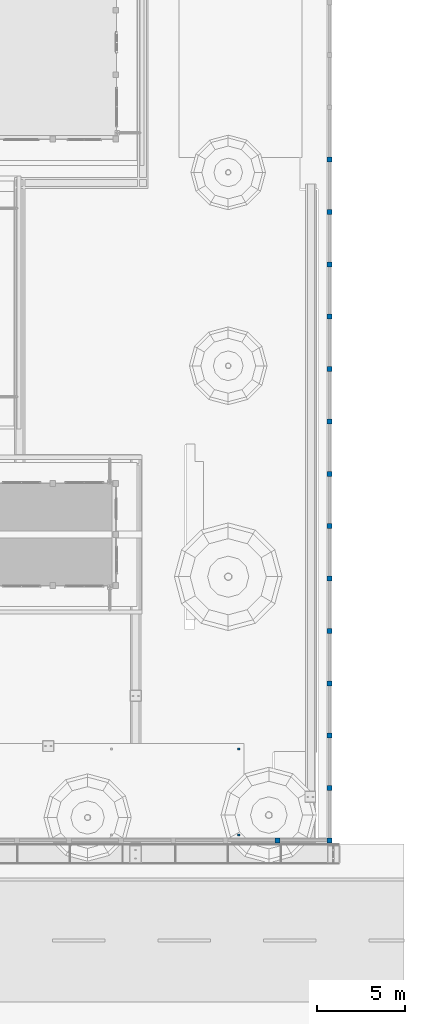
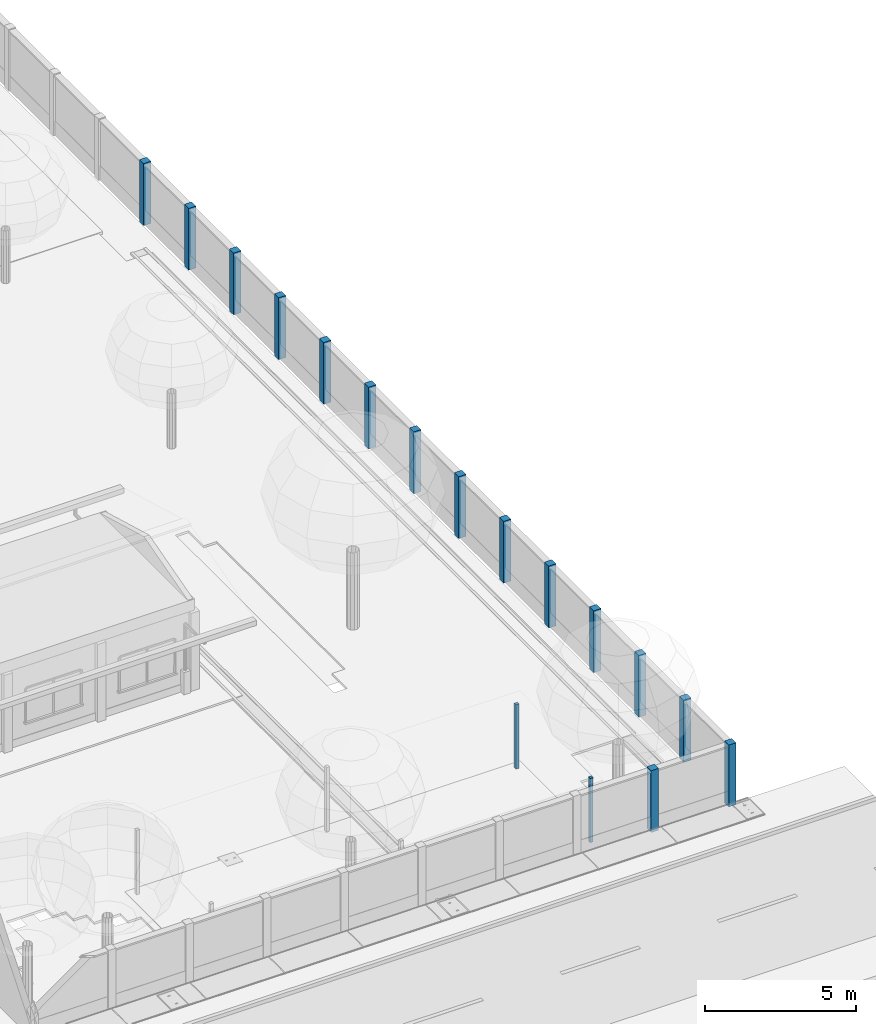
# One storey, part 5 of 177: 18 columns.
"""IFC4 building model written with IfcOpenShell, lengths in metres."""

from ifc_helpers import new_model, si_unit, origin, origin_with_axes, place, context, subcontext, project, spatial, triangles, element, save


model = new_model("IFC4")

# Units and contexts
model_context = context("Model", 3, precision=1e-05, world=origin_with_axes())
body_context = subcontext(model_context, "Body", "Model", "MODEL_VIEW")
ifc_project = project(units=[si_unit("LENGTHUNIT", "METRE"), si_unit("AREAUNIT", "SQUARE_METRE"), si_unit("VOLUMEUNIT", "CUBIC_METRE"), si_unit("PLANEANGLEUNIT", "RADIAN")], contexts=[model_context])

# Site, building, storey
site_placement = place(None, origin_with_axes())
site = spatial("IfcSite", under=ifc_project, at=site_placement, Name="Predio Los Mangos - Morales, San Martín", CompositionType="ELEMENT")
building_placement = place(site_placement, origin())
building = spatial("IfcBuilding", under=site, at=building_placement, Name="Hogar de Refugio Temporal", CompositionType="ELEMENT")
storey_placement = place(building_placement, origin())
storey = spatial("IfcBuildingStorey", under=building, at=storey_placement, Name="NIVEL 1 (NPT +0.00)", CompositionType="ELEMENT", Elevation=0.0)

# Columns
column_1_placement = place(storey_placement, origin())
element("IfcColumn", 1, at=column_1_placement, inside=storey, Name="poste_autos", ObjectType="Columna", PredefinedType="COLUMN", context=body_context, shape_type="Tessellation", body=[
    triangles([(66.54, 18.24, 0.1), (66.66, 18.24, 0.1), (66.66, 18.36, 0.1), (66.54, 18.36, 0.1), (66.54, 18.24, 2.7), (66.66, 18.24, 2.7), (66.66, 18.36, 2.7), (66.54, 18.36, 2.7)], [[1, 4, 3], [1, 3, 2], [5, 6, 7], [5, 7, 8], [1, 2, 6], [1, 6, 5], [2, 3, 7], [2, 7, 6], [3, 4, 8], [3, 8, 7], [4, 1, 5], [4, 5, 8]]),
])
column_2_placement = place(storey_placement, origin())
element("IfcColumn", 2, at=column_2_placement, inside=storey, Name="poste_autos", ObjectType="Columna", PredefinedType="COLUMN", context=body_context, shape_type="Tessellation", body=[
    triangles([(66.54, 23.14, 0.1), (66.66, 23.14, 0.1), (66.66, 23.26, 0.1), (66.54, 23.26, 0.1), (66.54, 23.14, 2.7), (66.66, 23.14, 2.7), (66.66, 23.26, 2.7), (66.54, 23.26, 2.7)], [[1, 4, 3], [1, 3, 2], [5, 6, 7], [5, 7, 8], [1, 2, 6], [1, 6, 5], [2, 3, 7], [2, 7, 6], [3, 4, 8], [3, 8, 7], [4, 1, 5], [4, 5, 8]]),
])
column_3_placement = place(storey_placement, origin())
element("IfcColumn", 3, at=column_3_placement, inside=storey, Name="columna_cerco", ObjectType="Columna", PredefinedType="COLUMN", context=body_context, shape_type="Tessellation", body=[
    triangles([(68.6578, 17.86, 0.0), (68.9378, 17.86, 0.0), (68.9378, 18.14, 0.0), (68.6578, 18.14, 0.0), (68.6578, 17.86, 2.5), (68.9378, 17.86, 2.5), (68.9378, 18.14, 2.5), (68.6578, 18.14, 2.5)], [[1, 4, 3], [1, 3, 2], [5, 6, 7], [5, 7, 8], [1, 2, 6], [1, 6, 5], [2, 3, 7], [2, 7, 6], [3, 4, 8], [3, 8, 7], [4, 1, 5], [4, 5, 8]]),
])
column_4_placement = place(storey_placement, origin())
element("IfcColumn", 4, at=column_4_placement, inside=storey, Name="columna_cerco", ObjectType="Columna", PredefinedType="COLUMN", context=body_context, shape_type="Tessellation", body=[
    triangles([(71.62, 17.86, 0.0), (71.9, 17.86, 0.0), (71.9, 18.14, 0.0), (71.62, 18.14, 0.0), (71.62, 17.86, 2.5), (71.9, 17.86, 2.5), (71.9, 18.14, 2.5), (71.62, 18.14, 2.5)], [[1, 4, 3], [1, 3, 2], [5, 6, 7], [5, 7, 8], [1, 2, 6], [1, 6, 5], [2, 3, 7], [2, 7, 6], [3, 4, 8], [3, 8, 7], [4, 1, 5], [4, 5, 8]]),
])
column_5_placement = place(storey_placement, origin())
element("IfcColumn", 5, at=column_5_placement, inside=storey, Name="columna_cerco", ObjectType="Columna", PredefinedType="COLUMN", context=body_context, shape_type="Tessellation", body=[
    triangles([(71.9, 17.86, 0.0), (71.9, 18.14, 0.0), (71.62, 18.14, 0.0), (71.62, 17.86, 0.0), (71.9, 17.86, 2.5), (71.9, 18.14, 2.5), (71.62, 18.14, 2.5), (71.62, 17.86, 2.5)], [[1, 4, 3], [1, 3, 2], [5, 6, 7], [5, 7, 8], [1, 2, 6], [1, 6, 5], [2, 3, 7], [2, 7, 6], [3, 4, 8], [3, 8, 7], [4, 1, 5], [4, 5, 8]]),
])
column_6_placement = place(storey_placement, origin())
element("IfcColumn", 6, at=column_6_placement, inside=storey, Name="columna_cerco", ObjectType="Columna", PredefinedType="COLUMN", context=body_context, shape_type="Tessellation", body=[
    triangles([(71.9, 20.8392, 0.0), (71.9, 21.1192, 0.0), (71.62, 21.1192, 0.0), (71.62, 20.8392, 0.0), (71.9, 20.8392, 2.5), (71.9, 21.1192, 2.5), (71.62, 21.1192, 2.5), (71.62, 20.8392, 2.5)], [[1, 4, 3], [1, 3, 2], [5, 6, 7], [5, 7, 8], [1, 2, 6], [1, 6, 5], [2, 3, 7], [2, 7, 6], [3, 4, 8], [3, 8, 7], [4, 1, 5], [4, 5, 8]]),
])
column_7_placement = place(storey_placement, origin())
element("IfcColumn", 7, at=column_7_placement, inside=storey, Name="columna_cerco", ObjectType="Columna", PredefinedType="COLUMN", context=body_context, shape_type="Tessellation", body=[
    triangles([(71.9, 23.8184, 0.0), (71.9, 24.0984, 0.0), (71.62, 24.0984, 0.0), (71.62, 23.8184, 0.0), (71.9, 23.8184, 2.5), (71.9, 24.0984, 2.5), (71.62, 24.0984, 2.5), (71.62, 23.8184, 2.5)], [[1, 4, 3], [1, 3, 2], [5, 6, 7], [5, 7, 8], [1, 2, 6], [1, 6, 5], [2, 3, 7], [2, 7, 6], [3, 4, 8], [3, 8, 7], [4, 1, 5], [4, 5, 8]]),
])
column_8_placement = place(storey_placement, origin())
element("IfcColumn", 8, at=column_8_placement, inside=storey, Name="columna_cerco", ObjectType="Columna", PredefinedType="COLUMN", context=body_context, shape_type="Tessellation", body=[
    triangles([(71.9, 26.7976, 0.0), (71.9, 27.0776, 0.0), (71.62, 27.0776, 0.0), (71.62, 26.7976, 0.0), (71.9, 26.7976, 2.5), (71.9, 27.0776, 2.5), (71.62, 27.0776, 2.5), (71.62, 26.7976, 2.5)], [[1, 4, 3], [1, 3, 2], [5, 6, 7], [5, 7, 8], [1, 2, 6], [1, 6, 5], [2, 3, 7], [2, 7, 6], [3, 4, 8], [3, 8, 7], [4, 1, 5], [4, 5, 8]]),
])
column_9_placement = place(storey_placement, origin())
element("IfcColumn", 9, at=column_9_placement, inside=storey, Name="columna_cerco", ObjectType="Columna", PredefinedType="COLUMN", context=body_context, shape_type="Tessellation", body=[
    triangles([(71.9, 29.7768, 0.0), (71.9, 30.0568, 0.0), (71.62, 30.0568, 0.0), (71.62, 29.7768, 0.0), (71.9, 29.7768, 2.5), (71.9, 30.0568, 2.5), (71.62, 30.0568, 2.5), (71.62, 29.7768, 2.5)], [[1, 4, 3], [1, 3, 2], [5, 6, 7], [5, 7, 8], [1, 2, 6], [1, 6, 5], [2, 3, 7], [2, 7, 6], [3, 4, 8], [3, 8, 7], [4, 1, 5], [4, 5, 8]]),
])
column_10_placement = place(storey_placement, origin())
element("IfcColumn", 10, at=column_10_placement, inside=storey, Name="columna_cerco", ObjectType="Columna", PredefinedType="COLUMN", context=body_context, shape_type="Tessellation", body=[
    triangles([(71.9, 32.7561, 0.0), (71.9, 33.0361, 0.0), (71.62, 33.0361, 0.0), (71.62, 32.7561, 0.0), (71.9, 32.7561, 2.5), (71.9, 33.0361, 2.5), (71.62, 33.0361, 2.5), (71.62, 32.7561, 2.5)], [[1, 4, 3], [1, 3, 2], [5, 6, 7], [5, 7, 8], [1, 2, 6], [1, 6, 5], [2, 3, 7], [2, 7, 6], [3, 4, 8], [3, 8, 7], [4, 1, 5], [4, 5, 8]]),
])
column_11_placement = place(storey_placement, origin())
element("IfcColumn", 11, at=column_11_placement, inside=storey, Name="columna_cerco", ObjectType="Columna", PredefinedType="COLUMN", context=body_context, shape_type="Tessellation", body=[
    triangles([(71.9, 35.7353, 0.0), (71.9, 36.0153, 0.0), (71.62, 36.0153, 0.0), (71.62, 35.7353, 0.0), (71.9, 35.7353, 2.5), (71.9, 36.0153, 2.5), (71.62, 36.0153, 2.5), (71.62, 35.7353, 2.5)], [[1, 4, 3], [1, 3, 2], [5, 6, 7], [5, 7, 8], [1, 2, 6], [1, 6, 5], [2, 3, 7], [2, 7, 6], [3, 4, 8], [3, 8, 7], [4, 1, 5], [4, 5, 8]]),
])
column_12_placement = place(storey_placement, origin())
element("IfcColumn", 12, at=column_12_placement, inside=storey, Name="columna_cerco", ObjectType="Columna", PredefinedType="COLUMN", context=body_context, shape_type="Tessellation", body=[
    triangles([(71.9, 38.7145, 0.0), (71.9, 38.9945, 0.0), (71.62, 38.9945, 0.0), (71.62, 38.7145, 0.0), (71.9, 38.7145, 2.5), (71.9, 38.9945, 2.5), (71.62, 38.9945, 2.5), (71.62, 38.7145, 2.5)], [[1, 4, 3], [1, 3, 2], [5, 6, 7], [5, 7, 8], [1, 2, 6], [1, 6, 5], [2, 3, 7], [2, 7, 6], [3, 4, 8], [3, 8, 7], [4, 1, 5], [4, 5, 8]]),
])
column_13_placement = place(storey_placement, origin())
element("IfcColumn", 13, at=column_13_placement, inside=storey, Name="columna_cerco", ObjectType="Columna", PredefinedType="COLUMN", context=body_context, shape_type="Tessellation", body=[
    triangles([(71.9, 41.6937, 0.0), (71.9, 41.9737, 0.0), (71.62, 41.9737, 0.0), (71.62, 41.6937, 0.0), (71.9, 41.6937, 2.5), (71.9, 41.9737, 2.5), (71.62, 41.9737, 2.5), (71.62, 41.6937, 2.5)], [[1, 4, 3], [1, 3, 2], [5, 6, 7], [5, 7, 8], [1, 2, 6], [1, 6, 5], [2, 3, 7], [2, 7, 6], [3, 4, 8], [3, 8, 7], [4, 1, 5], [4, 5, 8]]),
])
column_14_placement = place(storey_placement, origin())
element("IfcColumn", 14, at=column_14_placement, inside=storey, Name="columna_cerco", ObjectType="Columna", PredefinedType="COLUMN", context=body_context, shape_type="Tessellation", body=[
    triangles([(71.9, 44.6729, 0.0), (71.9, 44.9529, 0.0), (71.62, 44.9529, 0.0), (71.62, 44.6729, 0.0), (71.9, 44.6729, 2.5), (71.9, 44.9529, 2.5), (71.62, 44.9529, 2.5), (71.62, 44.6729, 2.5)], [[1, 4, 3], [1, 3, 2], [5, 6, 7], [5, 7, 8], [1, 2, 6], [1, 6, 5], [2, 3, 7], [2, 7, 6], [3, 4, 8], [3, 8, 7], [4, 1, 5], [4, 5, 8]]),
])
column_15_placement = place(storey_placement, origin())
element("IfcColumn", 15, at=column_15_placement, inside=storey, Name="columna_cerco", ObjectType="Columna", PredefinedType="COLUMN", context=body_context, shape_type="Tessellation", body=[
    triangles([(71.9, 47.6521, 0.0), (71.9, 47.9321, 0.0), (71.62, 47.9321, 0.0), (71.62, 47.6521, 0.0), (71.9, 47.6521, 2.5), (71.9, 47.9321, 2.5), (71.62, 47.9321, 2.5), (71.62, 47.6521, 2.5)], [[1, 4, 3], [1, 3, 2], [5, 6, 7], [5, 7, 8], [1, 2, 6], [1, 6, 5], [2, 3, 7], [2, 7, 6], [3, 4, 8], [3, 8, 7], [4, 1, 5], [4, 5, 8]]),
])
column_16_placement = place(storey_placement, origin())
element("IfcColumn", 16, at=column_16_placement, inside=storey, Name="columna_cerco", ObjectType="Columna", PredefinedType="COLUMN", context=body_context, shape_type="Tessellation", body=[
    triangles([(71.9, 50.6313, 0.0), (71.9, 50.9113, 0.0), (71.62, 50.9113, 0.0), (71.62, 50.6313, 0.0), (71.9, 50.6313, 2.5), (71.9, 50.9113, 2.5), (71.62, 50.9113, 2.5), (71.62, 50.6313, 2.5)], [[1, 4, 3], [1, 3, 2], [5, 6, 7], [5, 7, 8], [1, 2, 6], [1, 6, 5], [2, 3, 7], [2, 7, 6], [3, 4, 8], [3, 8, 7], [4, 1, 5], [4, 5, 8]]),
])
column_17_placement = place(storey_placement, origin())
element("IfcColumn", 17, at=column_17_placement, inside=storey, Name="columna_cerco", ObjectType="Columna", PredefinedType="COLUMN", context=body_context, shape_type="Tessellation", body=[
    triangles([(71.9, 53.6105, 0.0), (71.9, 53.8905, 0.0), (71.62, 53.8905, 0.0), (71.62, 53.6105, 0.0), (71.9, 53.6105, 2.5), (71.9, 53.8905, 2.5), (71.62, 53.8905, 2.5), (71.62, 53.6105, 2.5)], [[1, 4, 3], [1, 3, 2], [5, 6, 7], [5, 7, 8], [1, 2, 6], [1, 6, 5], [2, 3, 7], [2, 7, 6], [3, 4, 8], [3, 8, 7], [4, 1, 5], [4, 5, 8]]),
])
column_18_placement = place(storey_placement, origin())
element("IfcColumn", 18, at=column_18_placement, inside=storey, Name="columna_cerco", ObjectType="Columna", PredefinedType="COLUMN", context=body_context, shape_type="Tessellation", body=[
    triangles([(71.9, 56.5897, 0.0), (71.9, 56.8697, 0.0), (71.62, 56.8697, 0.0), (71.62, 56.5897, 0.0), (71.9, 56.5897, 2.5), (71.9, 56.8697, 2.5), (71.62, 56.8697, 2.5), (71.62, 56.5897, 2.5)], [[1, 4, 3], [1, 3, 2], [5, 6, 7], [5, 7, 8], [1, 2, 6], [1, 6, 5], [2, 3, 7], [2, 7, 6], [3, 4, 8], [3, 8, 7], [4, 1, 5], [4, 5, 8]]),
])

save(model, "model.ifc")
